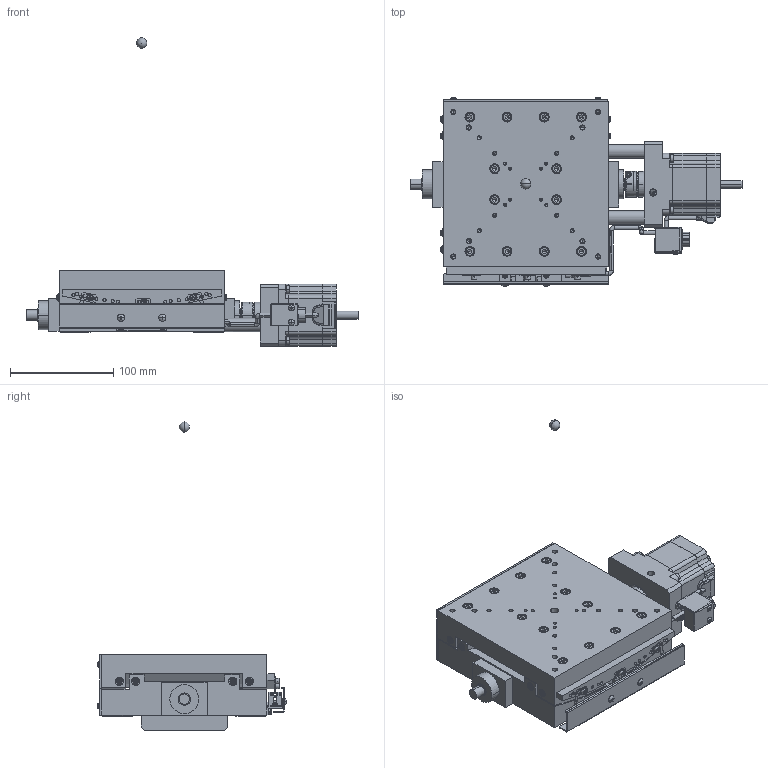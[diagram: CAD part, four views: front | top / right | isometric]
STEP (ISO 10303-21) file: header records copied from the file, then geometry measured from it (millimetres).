
FILE_DESCRIPTION (( 'STEP AP203' ), '1' );
FILE_NAME ('SA16A-RT01-R.STEP', '2019-02-20T06:40:16', ( '' ), ( '' ), 'SwSTEP 2.0', 'SolidWorks 2018', '' );
FILE_SCHEMA (( 'CONFIG_CONTROL_DESIGN' ));
Products named in the file (4): SA16A-RT01-R; table; rotation center; base
Assembly tree (3 placements, depth 2):
  SA16A-RT01-R
    base
    table
    rotation center
Bounding box: 321.5 x 182.87 x 298.5 mm (x, y, z)
Volume: 1765699.5 mm3; surface area: 244813.8 mm2
Topology: 3 solids, 3 shells, 2873 faces, 7245 edges, 4497 vertices
Faces by surface type: plane 1738, cylinder 699, cone 328, torus 62, sphere 42, bspline 4
Entity records: 86560 total; most frequent: CARTESIAN_POINT 16161, DIRECTION 15048, ORIENTED_EDGE 14252, EDGE_CURVE 7126, AXIS2_PLACEMENT_3D 5199, VECTOR 4650, LINE 4650, VERTEX_POINT 4494
